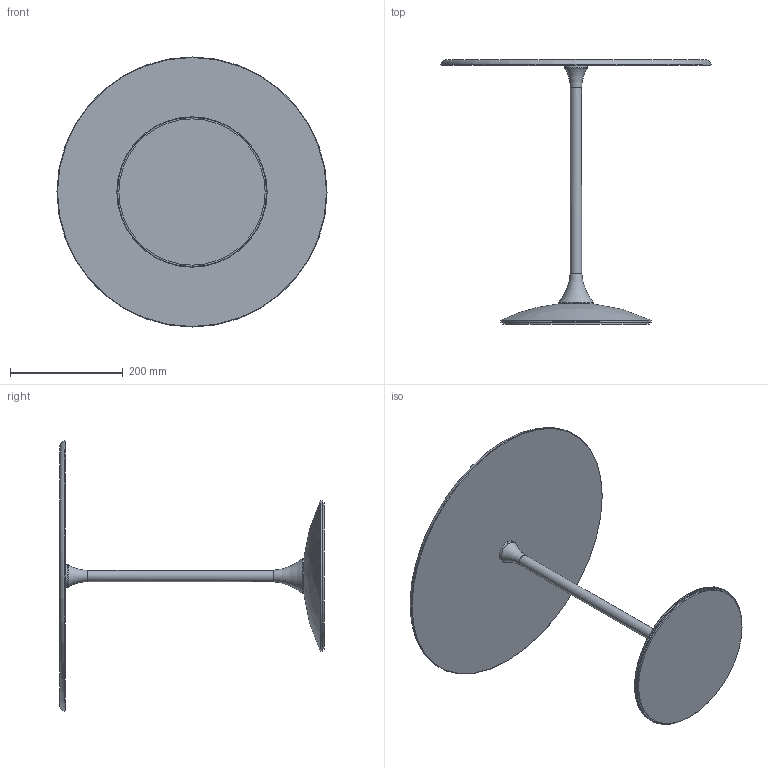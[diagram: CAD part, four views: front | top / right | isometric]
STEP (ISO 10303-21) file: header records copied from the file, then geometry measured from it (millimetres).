
FILE_DESCRIPTION((''),'2;1');
FILE_NAME('C:\AutodeskVault\AreaLavoro\Progetti\SoVeT Italia\2. Tavolini_Coffee tables\Tulip\Web file\Tulip Web\P4600.stp','2012-06-14T17:25:41',('Gianluca'),('So.Ve.T. s.r.l.'),'Autodesk Inventor 2013','Autodesk Inventor 2013','IL PROGETTO E'' DI ESCLUSIVA PROPRIETA'' DELLA SO.VE.T. srl. E'' VIETATA OGNI RIPRODUZIONE TOTALE O PARZIALE E QUALSIASI UTILIZZO NON AUTORIZZATO. ');
FILE_SCHEMA(('AUTOMOTIVE_DESIGN { 1 0 10303 214 1 1 1 1 }'));
Length unit declared in the file: millimetre
Products named in the file (1): P4600 LCTR Contorno semplificato
Bounding box: 480 x 470.45 x 480 mm (x, y, z)
Volume: 3237134.6 mm3; surface area: 517771.8 mm2
Topology: 1 solids, 1 shells, 26 faces, 51 edges, 30 vertices
Faces by surface type: cone 7, torus 7, plane 6, cylinder 5, bspline 1
Full cylindrical faces by diameter (mm): 20 x1, 40 x1, 60 x1, 260 x1, 267 x1
Entity records: 614 total; most frequent: CARTESIAN_POINT 102, DIRECTION 102, AXIS2_PLACEMENT_3D 51, ORIENTED_EDGE 50, EDGE_LOOP 50, STYLED_ITEM 27, FACE_OUTER_BOUND 26, ADVANCED_FACE 26
